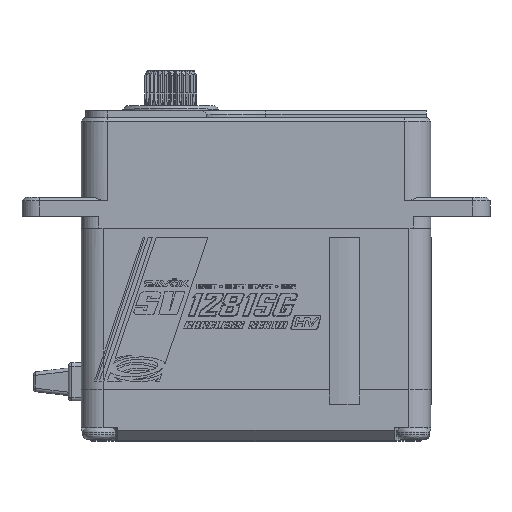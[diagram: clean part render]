
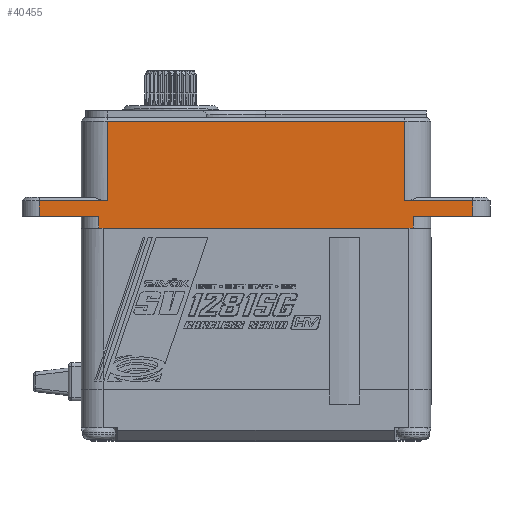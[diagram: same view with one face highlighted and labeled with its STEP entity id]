
A CAD part, top view. The second image highlights one B-rep face of the part: STEP entity #40455.
In plain terms, the highlighted planar face has unit normal (0, 0, 1).
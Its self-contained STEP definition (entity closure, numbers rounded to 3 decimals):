
#329 = ORIENTED_EDGE ( 'NONE', *, *, #23033, .F. ) ;
#400 = VERTEX_POINT ( 'NONE', #30402 ) ;
#616 = EDGE_CURVE ( 'NONE', #34227, #43899, #43617, .T. ) ;
#946 = DIRECTION ( 'NONE',  ( -1., 0., 0. ) ) ;
#2529 = EDGE_CURVE ( 'NONE', #35308, #28621, #31701, .T. ) ;
#3468 = CARTESIAN_POINT ( 'NONE',  ( -15.15, 1.8, 10.1 ) ) ;
#3810 = CARTESIAN_POINT ( 'NONE',  ( -7.8, -1.35, 10.1 ) ) ;
#5042 = CARTESIAN_POINT ( 'NONE',  ( 27.5, -1.35, 10.1 ) ) ;
#5722 = LINE ( 'NONE', #24512, #46870 ) ;
#5955 = DIRECTION ( 'NONE',  ( 0., 1., 0. ) ) ;
#5984 = ORIENTED_EDGE ( 'NONE', *, *, #616, .F. ) ;
#6178 = EDGE_CURVE ( 'NONE', #30440, #35308, #43223, .T. ) ;
#8242 = DIRECTION ( 'NONE',  ( 0., -1., 0. ) ) ;
#9407 = CARTESIAN_POINT ( 'NONE',  ( -15.15, 11., 10.1 ) ) ;
#9596 = CARTESIAN_POINT ( 'NONE',  ( 28., 0., 10.1 ) ) ;
#9863 = CARTESIAN_POINT ( 'NONE',  ( -7.3, 1.8, 10.1 ) ) ;
#10395 = VECTOR ( 'NONE', #8242, 1000. ) ;
#11165 = EDGE_CURVE ( 'NONE', #18929, #50048, #27263, .T. ) ;
#11261 = VECTOR ( 'NONE', #37753, 1000. ) ;
#11777 = PLANE ( 'NONE',  #50860 ) ;
#11903 = CARTESIAN_POINT ( 'NONE',  ( -15.15, 2.2, 10.1 ) ) ;
#12069 = CARTESIAN_POINT ( 'NONE',  ( -7.3, 11., 10.1 ) ) ;
#12816 = EDGE_CURVE ( 'NONE', #42585, #39615, #5722, .T. ) ;
#13157 = VECTOR ( 'NONE', #59037, 1000. ) ;
#14522 = DIRECTION ( 'NONE',  ( 0., -1., 0. ) ) ;
#14591 = VECTOR ( 'NONE', #26904, 1000. ) ;
#15124 = ORIENTED_EDGE ( 'NONE', *, *, #16248, .F. ) ;
#15390 = ORIENTED_EDGE ( 'NONE', *, *, #54821, .F. ) ;
#16248 = EDGE_CURVE ( 'NONE', #400, #43468, #18449, .T. ) ;
#16852 = CARTESIAN_POINT ( 'NONE',  ( 34.85, 1.8, 10.1 ) ) ;
#16989 = DIRECTION ( 'NONE',  ( 0., 0., 1. ) ) ;
#18219 = VECTOR ( 'NONE', #42089, 1000. ) ;
#18449 = LINE ( 'NONE', #36643, #54344 ) ;
#18545 = VECTOR ( 'NONE', #20976, 1000. ) ;
#18929 = VERTEX_POINT ( 'NONE', #29049 ) ;
#19160 = LINE ( 'NONE', #37961, #36733 ) ;
#19427 = CARTESIAN_POINT ( 'NONE',  ( 28., -1.35, 10.1 ) ) ;
#19908 = CARTESIAN_POINT ( 'NONE',  ( -15.15, 1.8, 10.1 ) ) ;
#20124 = ORIENTED_EDGE ( 'NONE', *, *, #29074, .F. ) ;
#20911 = CARTESIAN_POINT ( 'NONE',  ( -15.15, 0., 10.1 ) ) ;
#20976 = DIRECTION ( 'NONE',  ( 1., 0., 0. ) ) ;
#21925 = CARTESIAN_POINT ( 'NONE',  ( -7.8, -25.9, 10.1 ) ) ;
#21956 = CARTESIAN_POINT ( 'NONE',  ( 28., -1.35, 10.1 ) ) ;
#23033 = EDGE_CURVE ( 'NONE', #28621, #50048, #36448, .T. ) ;
#23586 = LINE ( 'NONE', #9407, #11261 ) ;
#24512 = CARTESIAN_POINT ( 'NONE',  ( -8.3, -0.85, 10.1 ) ) ;
#24567 = EDGE_CURVE ( 'NONE', #43468, #45625, #49197, .T. ) ;
#25255 = EDGE_CURVE ( 'NONE', #56653, #50324, #34765, .T. ) ;
#26572 = FACE_OUTER_BOUND ( 'NONE', #39807, .T. ) ;
#26904 = DIRECTION ( 'NONE',  ( -1., 0., 0. ) ) ;
#27162 = ORIENTED_EDGE ( 'NONE', *, *, #2529, .F. ) ;
#27263 = LINE ( 'NONE', #3810, #18219 ) ;
#28004 = EDGE_CURVE ( 'NONE', #39615, #56653, #38176, .T. ) ;
#28621 = VERTEX_POINT ( 'NONE', #32289 ) ;
#29049 = CARTESIAN_POINT ( 'NONE',  ( -7.8, -1.35, 10.1 ) ) ;
#29074 = EDGE_CURVE ( 'NONE', #50324, #34227, #50276, .T. ) ;
#30394 = CARTESIAN_POINT ( 'NONE',  ( 27., 1.8, 10.1 ) ) ;
#30402 = CARTESIAN_POINT ( 'NONE',  ( 27., 11., 10.1 ) ) ;
#30440 = VERTEX_POINT ( 'NONE', #36891 ) ;
#30612 = DIRECTION ( 'NONE',  ( 1., 0., 0. ) ) ;
#30688 = CARTESIAN_POINT ( 'NONE',  ( -8.3, -1.35, 10.1 ) ) ;
#30807 = CARTESIAN_POINT ( 'NONE',  ( -15.15, 0., 10.1 ) ) ;
#31701 = LINE ( 'NONE', #50510, #10395 ) ;
#32261 = VECTOR ( 'NONE', #34188, 1000. ) ;
#32289 = CARTESIAN_POINT ( 'NONE',  ( 28., -1.35, 10.1 ) ) ;
#33538 = ORIENTED_EDGE ( 'NONE', *, *, #24567, .F. ) ;
#34188 = DIRECTION ( 'NONE',  ( -1., 0., 0. ) ) ;
#34227 = VERTEX_POINT ( 'NONE', #9863 ) ;
#34467 = DIRECTION ( 'NONE',  ( 0., 1., 0. ) ) ;
#34765 = LINE ( 'NONE', #11903, #60548 ) ;
#35066 = ORIENTED_EDGE ( 'NONE', *, *, #28004, .F. ) ;
#35308 = VERTEX_POINT ( 'NONE', #9596 ) ;
#36448 = LINE ( 'NONE', #21956, #14591 ) ;
#36643 = CARTESIAN_POINT ( 'NONE',  ( 27., 2.2, 10.1 ) ) ;
#36733 = VECTOR ( 'NONE', #14522, 1000. ) ;
#36891 = CARTESIAN_POINT ( 'NONE',  ( 34.85, 0., 10.1 ) ) ;
#37753 = DIRECTION ( 'NONE',  ( 1., 0., 0. ) ) ;
#37961 = CARTESIAN_POINT ( 'NONE',  ( 34.85, 2.2, 10.1 ) ) ;
#38176 = LINE ( 'NONE', #20911, #32261 ) ;
#38235 = LINE ( 'NONE', #19427, #52152 ) ;
#38745 = ORIENTED_EDGE ( 'NONE', *, *, #12816, .F. ) ;
#39048 = EDGE_CURVE ( 'NONE', #43899, #400, #23586, .T. ) ;
#39615 = VERTEX_POINT ( 'NONE', #57289 ) ;
#39807 = EDGE_LOOP ( 'NONE', ( #48302, #41251, #329, #27162, #42789, #15390, #33538, #15124, #41208, #5984, #20124, #43131, #35066, #38745 ) ) ;
#40455 = ADVANCED_FACE ( 'NONE', ( #26572 ), #11777, .T. ) ;
#40562 = DIRECTION ( 'NONE',  ( 0., 1., 0. ) ) ;
#41208 = ORIENTED_EDGE ( 'NONE', *, *, #39048, .F. ) ;
#41251 = ORIENTED_EDGE ( 'NONE', *, *, #11165, .T. ) ;
#42089 = DIRECTION ( 'NONE',  ( 1., 0., 0. ) ) ;
#42585 = VERTEX_POINT ( 'NONE', #30688 ) ;
#42789 = ORIENTED_EDGE ( 'NONE', *, *, #6178, .F. ) ;
#43131 = ORIENTED_EDGE ( 'NONE', *, *, #25255, .F. ) ;
#43223 = LINE ( 'NONE', #57087, #44476 ) ;
#43312 = CARTESIAN_POINT ( 'NONE',  ( -7.3, 2.2, 10.1 ) ) ;
#43468 = VERTEX_POINT ( 'NONE', #30394 ) ;
#43617 = LINE ( 'NONE', #43312, #52562 ) ;
#43833 = DIRECTION ( 'NONE',  ( -1., 0., 0. ) ) ;
#43899 = VERTEX_POINT ( 'NONE', #12069 ) ;
#44476 = VECTOR ( 'NONE', #946, 1000. ) ;
#45214 = EDGE_CURVE ( 'NONE', #18929, #42585, #38235, .T. ) ;
#45625 = VERTEX_POINT ( 'NONE', #16852 ) ;
#46265 = DIRECTION ( 'NONE',  ( 0., -1., 0. ) ) ;
#46870 = VECTOR ( 'NONE', #40562, 1000. ) ;
#48302 = ORIENTED_EDGE ( 'NONE', *, *, #45214, .F. ) ;
#49197 = LINE ( 'NONE', #3468, #13157 ) ;
#50048 = VERTEX_POINT ( 'NONE', #5042 ) ;
#50276 = LINE ( 'NONE', #58319, #18545 ) ;
#50324 = VERTEX_POINT ( 'NONE', #19908 ) ;
#50510 = CARTESIAN_POINT ( 'NONE',  ( 28., -0.85, 10.1 ) ) ;
#50860 = AXIS2_PLACEMENT_3D ( 'NONE', #21925, #16989, #30612 ) ;
#52152 = VECTOR ( 'NONE', #43833, 1000. ) ;
#52562 = VECTOR ( 'NONE', #5955, 1000. ) ;
#54344 = VECTOR ( 'NONE', #46265, 1000. ) ;
#54821 = EDGE_CURVE ( 'NONE', #45625, #30440, #19160, .T. ) ;
#56653 = VERTEX_POINT ( 'NONE', #30807 ) ;
#57087 = CARTESIAN_POINT ( 'NONE',  ( -15.15, 0., 10.1 ) ) ;
#57289 = CARTESIAN_POINT ( 'NONE',  ( -8.3, 0., 10.1 ) ) ;
#58319 = CARTESIAN_POINT ( 'NONE',  ( -15.15, 1.8, 10.1 ) ) ;
#59037 = DIRECTION ( 'NONE',  ( 1., 0., 0. ) ) ;
#60548 = VECTOR ( 'NONE', #34467, 1000. ) ;
